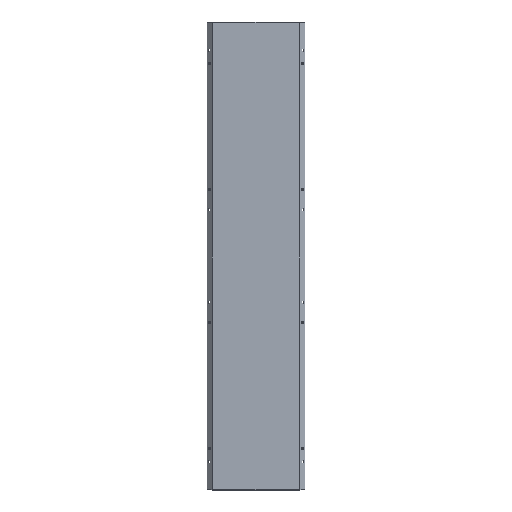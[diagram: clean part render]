
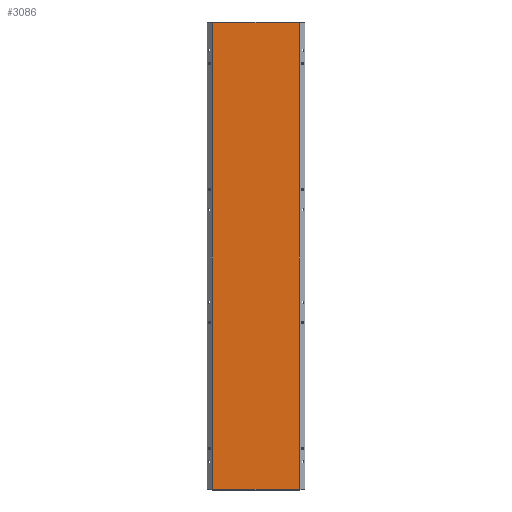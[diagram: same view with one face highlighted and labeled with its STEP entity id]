
A CAD part, top view. The second image highlights one B-rep face of the part: STEP entity #3086.
In plain terms, the highlighted planar face has unit normal (0, 0, 1).
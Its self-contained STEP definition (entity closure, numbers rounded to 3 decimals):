
#26 = VERTEX_POINT ( 'NONE', #2267 ) ;
#828 = AXIS2_PLACEMENT_3D ( 'NONE', #6478, #999, #3440 ) ;
#854 = EDGE_CURVE ( 'NONE', #5644, #26, #3214, .T. ) ;
#999 = DIRECTION ( 'NONE',  ( 0., 0., -1. ) ) ;
#1079 = PLANE ( 'NONE',  #828 ) ;
#1287 = VERTEX_POINT ( 'NONE', #3508 ) ;
#1312 = LINE ( 'NONE', #6191, #3378 ) ;
#1422 = CARTESIAN_POINT ( 'NONE',  ( -161.5, 870.5, 0. ) ) ;
#1505 = ORIENTED_EDGE ( 'NONE', *, *, #5036, .T. ) ;
#1604 = ORIENTED_EDGE ( 'NONE', *, *, #5474, .T. ) ;
#2267 = CARTESIAN_POINT ( 'NONE',  ( -161.5, 870.5, 0. ) ) ;
#2595 = VERTEX_POINT ( 'NONE', #7217 ) ;
#2624 = DIRECTION ( 'NONE',  ( -1., 0., 0. ) ) ;
#3086 = ADVANCED_FACE ( 'NONE', ( #3403 ), #1079, .F. ) ;
#3214 = LINE ( 'NONE', #1422, #7552 ) ;
#3234 = EDGE_CURVE ( 'NONE', #2595, #5644, #5467, .T. ) ;
#3378 = VECTOR ( 'NONE', #4232, 1000. ) ;
#3403 = FACE_OUTER_BOUND ( 'NONE', #3885, .T. ) ;
#3440 = DIRECTION ( 'NONE',  ( -1., 0., 0. ) ) ;
#3508 = CARTESIAN_POINT ( 'NONE',  ( -161.5, -870.5, 0. ) ) ;
#3885 = EDGE_LOOP ( 'NONE', ( #5064, #6267, #1604, #1505 ) ) ;
#3954 = CARTESIAN_POINT ( 'NONE',  ( 161.5, 870.5, 0. ) ) ;
#3957 = VECTOR ( 'NONE', #7093, 1000. ) ;
#4232 = DIRECTION ( 'NONE',  ( 0., -1., 0. ) ) ;
#4357 = DIRECTION ( 'NONE',  ( 0., 1., 0. ) ) ;
#4648 = LINE ( 'NONE', #7167, #3957 ) ;
#5036 = EDGE_CURVE ( 'NONE', #1287, #2595, #4648, .T. ) ;
#5064 = ORIENTED_EDGE ( 'NONE', *, *, #3234, .T. ) ;
#5467 = LINE ( 'NONE', #7887, #6063 ) ;
#5474 = EDGE_CURVE ( 'NONE', #26, #1287, #1312, .T. ) ;
#5644 = VERTEX_POINT ( 'NONE', #3954 ) ;
#6063 = VECTOR ( 'NONE', #4357, 1000. ) ;
#6191 = CARTESIAN_POINT ( 'NONE',  ( -161.5, -870.5, 0. ) ) ;
#6267 = ORIENTED_EDGE ( 'NONE', *, *, #854, .T. ) ;
#6478 = CARTESIAN_POINT ( 'NONE',  ( 0., 0., 0. ) ) ;
#7093 = DIRECTION ( 'NONE',  ( 1., 0., 0. ) ) ;
#7167 = CARTESIAN_POINT ( 'NONE',  ( -161.5, -870.5, 0. ) ) ;
#7217 = CARTESIAN_POINT ( 'NONE',  ( 161.5, -870.5, 0. ) ) ;
#7552 = VECTOR ( 'NONE', #2624, 1000. ) ;
#7887 = CARTESIAN_POINT ( 'NONE',  ( 161.5, -870.5, 0. ) ) ;
